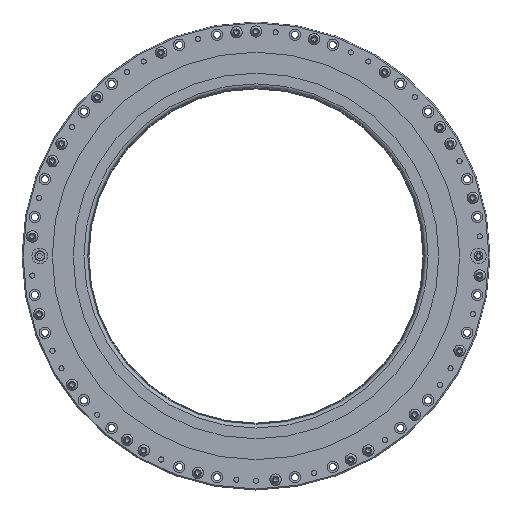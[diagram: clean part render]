
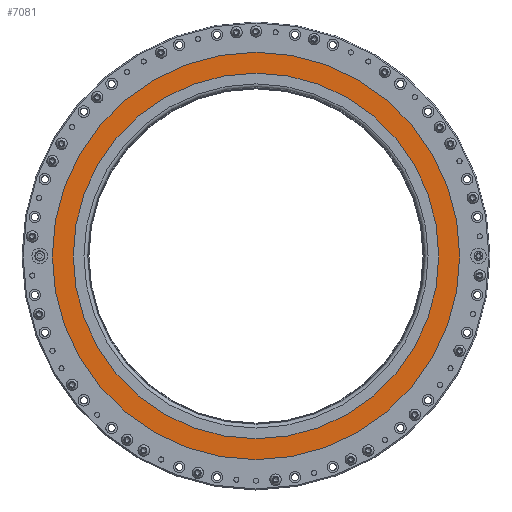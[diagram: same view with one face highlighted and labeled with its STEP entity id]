
A CAD part, top view. The second image highlights one B-rep face of the part: STEP entity #7081.
In plain terms, the highlighted planar face has unit normal (0, 0, 1) as drawn and (0, 0, -1) by its records, which use the part's own axes.
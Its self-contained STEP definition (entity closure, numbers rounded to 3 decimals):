
#492=PLANE('',#7678);
#771=CIRCLE('',#7679,175.);
#772=CIRCLE('',#7680,195.);
#1608=ORIENTED_EDGE('',*,*,#2442,.T.);
#1609=ORIENTED_EDGE('',*,*,#2443,.F.);
#2442=EDGE_CURVE('',#2941,#2941,#771,.T.);
#2443=EDGE_CURVE('',#2942,#2942,#772,.T.);
#2941=VERTEX_POINT('',#11652);
#2942=VERTEX_POINT('',#11654);
#3691=EDGE_LOOP('',(#1608));
#3692=EDGE_LOOP('',(#1609));
#4398=FACE_BOUND('',#3691,.T.);
#4399=FACE_BOUND('',#3692,.T.);
#7081=ADVANCED_FACE('',(#4398,#4399),#492,.F.);
#7678=AXIS2_PLACEMENT_3D('',#11650,#8897,#8898);
#7679=AXIS2_PLACEMENT_3D('',#11651,#8899,#8900);
#7680=AXIS2_PLACEMENT_3D('',#11653,#8901,#8902);
#8897=DIRECTION('',(0.,0.,1.));
#8898=DIRECTION('',(1.,0.,0.));
#8899=DIRECTION('',(0.,0.,1.));
#8900=DIRECTION('',(1.,0.,0.));
#8901=DIRECTION('',(0.,0.,1.));
#8902=DIRECTION('',(1.,0.,0.));
#11650=CARTESIAN_POINT('',(175.,0.,-10.5));
#11651=CARTESIAN_POINT('',(0.,0.,-10.5));
#11652=CARTESIAN_POINT('',(175.,0.,-10.5));
#11653=CARTESIAN_POINT('',(0.,0.,-10.5));
#11654=CARTESIAN_POINT('',(195.,0.,-10.5));
